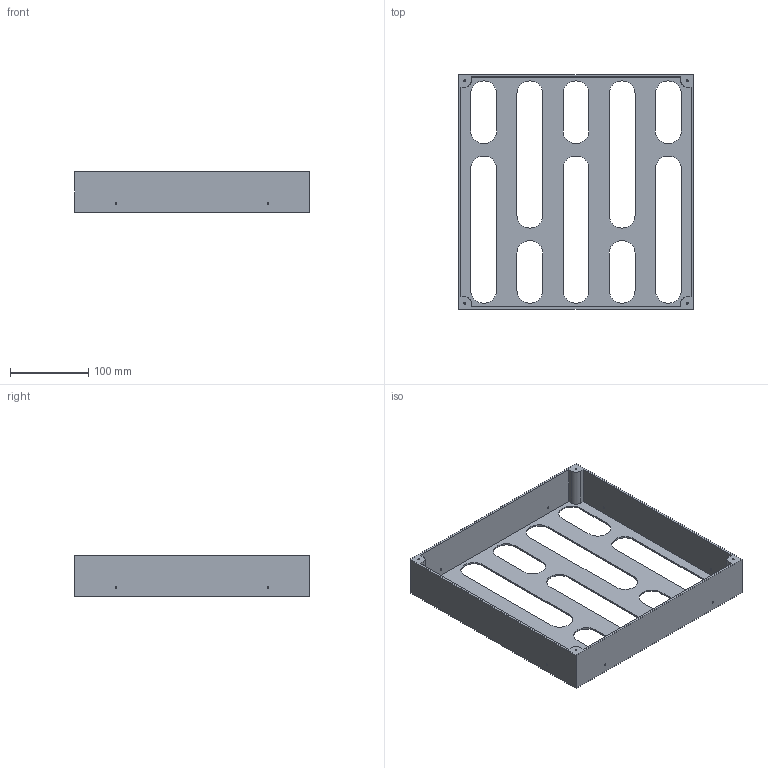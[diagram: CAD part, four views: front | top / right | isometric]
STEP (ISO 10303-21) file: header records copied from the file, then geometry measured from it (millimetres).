
FILE_DESCRIPTION(/* description */ (''),/* implementation_level */ '2;1');
FILE_NAME(/* name */ 'star wars imp light - bracket.step',/* time_stamp */ '2025-11-16T11:16:21+01:00',/* author */ (''),/* organization */ (''),/* preprocessor_version */ 'ST-DEVELOPER v20.1',/* originating_system */ 'Autodesk Translation Framework v14.21.0.0',/* authorisation */ '');
FILE_SCHEMA (('AUTOMOTIVE_DESIGN { 1 0 10303 214 3 1 1 }'));
Length unit declared in the file: millimetre
Products named in the file (1): star wars imp light - bracket
Bounding box: 300 x 300 x 52 mm (x, y, z)
Volume: 304151 mm3; surface area: 224270.3 mm2
Topology: 1 solids, 1 shells, 119 faces, 336 edges, 224 vertices
Faces by surface type: plane 63, cylinder 56
Full cylindrical faces by diameter (mm): 2 x8, 2.5 x4
Entity records: 3987 total; most frequent: DIRECTION 688, CARTESIAN_POINT 680, ORIENTED_EDGE 672, EDGE_CURVE 336, AXIS2_PLACEMENT_3D 232, LINE 224, VECTOR 224, VERTEX_POINT 224
